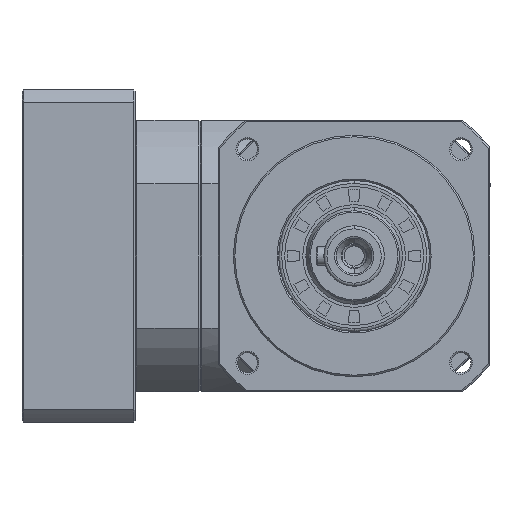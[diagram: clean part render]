
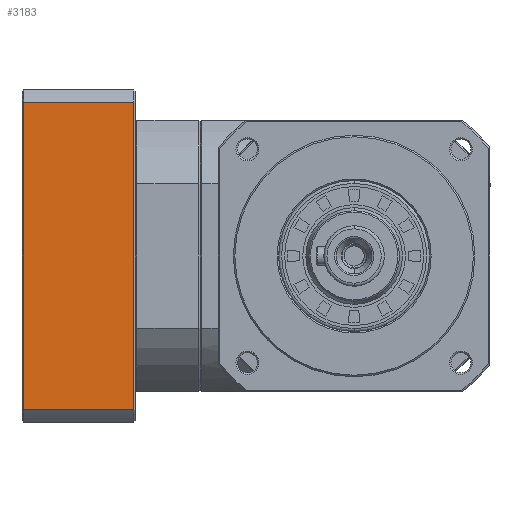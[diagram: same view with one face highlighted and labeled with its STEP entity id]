
A CAD part, left-side view. The second image highlights one B-rep face of the part: STEP entity #3183.
In plain terms, the highlighted planar face has unit normal (1, 0, 0).
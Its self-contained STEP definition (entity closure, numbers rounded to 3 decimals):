
#1468 = ORIENTED_EDGE ( 'NONE', *, *, #10268, .F. ) ;
#3183 = ADVANCED_FACE ( 'NONE', ( #22462 ), #41175, .F. ) ;
#5448 = LINE ( 'NONE', #21271, #80684 ) ;
#7539 = VERTEX_POINT ( 'NONE', #28758 ) ;
#7942 = EDGE_CURVE ( 'NONE', #93500, #31274, #5448, .T. ) ;
#8673 = EDGE_LOOP ( 'NONE', ( #30309, #1468, #39324, #84536 ) ) ;
#10268 = EDGE_CURVE ( 'NONE', #42468, #31274, #54263, .T. ) ;
#14588 = VECTOR ( 'NONE', #72509, 1000. ) ;
#18065 = VECTOR ( 'NONE', #55414, 1000. ) ;
#18754 = CARTESIAN_POINT ( 'NONE',  ( 64., 91.25, 50.99 ) ) ;
#21271 = CARTESIAN_POINT ( 'NONE',  ( 64., 91.25, -50.99 ) ) ;
#22462 = FACE_OUTER_BOUND ( 'NONE', #8673, .T. ) ;
#22590 = AXIS2_PLACEMENT_3D ( 'NONE', #91616, #40863, #91283 ) ;
#28677 = DIRECTION ( 'NONE',  ( 0., 0., -1. ) ) ;
#28758 = CARTESIAN_POINT ( 'NONE',  ( 64., 73., 50.99 ) ) ;
#30309 = ORIENTED_EDGE ( 'NONE', *, *, #7942, .T. ) ;
#31274 = VERTEX_POINT ( 'NONE', #40250 ) ;
#31784 = EDGE_CURVE ( 'NONE', #42468, #7539, #37454, .T. ) ;
#32323 = CARTESIAN_POINT ( 'NONE',  ( 64., 73., -50.99 ) ) ;
#37454 = LINE ( 'NONE', #18754, #18065 ) ;
#39324 = ORIENTED_EDGE ( 'NONE', *, *, #31784, .T. ) ;
#40250 = CARTESIAN_POINT ( 'NONE',  ( 64., 109.5, -50.99 ) ) ;
#40863 = DIRECTION ( 'NONE',  ( -1., 0., 0. ) ) ;
#41175 = PLANE ( 'NONE',  #22590 ) ;
#42468 = VERTEX_POINT ( 'NONE', #60234 ) ;
#42535 = CARTESIAN_POINT ( 'NONE',  ( 64., 73., 0. ) ) ;
#45104 = VECTOR ( 'NONE', #28677, 1000. ) ;
#53378 = LINE ( 'NONE', #42535, #14588 ) ;
#54263 = LINE ( 'NONE', #93784, #45104 ) ;
#55414 = DIRECTION ( 'NONE',  ( 0., -1., 0. ) ) ;
#60234 = CARTESIAN_POINT ( 'NONE',  ( 64., 109.5, 50.99 ) ) ;
#63665 = EDGE_CURVE ( 'NONE', #93500, #7539, #53378, .T. ) ;
#72509 = DIRECTION ( 'NONE',  ( 0., 0., 1. ) ) ;
#80684 = VECTOR ( 'NONE', #93132, 1000. ) ;
#84536 = ORIENTED_EDGE ( 'NONE', *, *, #63665, .F. ) ;
#91283 = DIRECTION ( 'NONE',  ( 0., 0., 1. ) ) ;
#91616 = CARTESIAN_POINT ( 'NONE',  ( 64., 73., -50.99 ) ) ;
#93132 = DIRECTION ( 'NONE',  ( 0., 1., 0. ) ) ;
#93500 = VERTEX_POINT ( 'NONE', #32323 ) ;
#93784 = CARTESIAN_POINT ( 'NONE',  ( 64., 109.5, 0. ) ) ;
